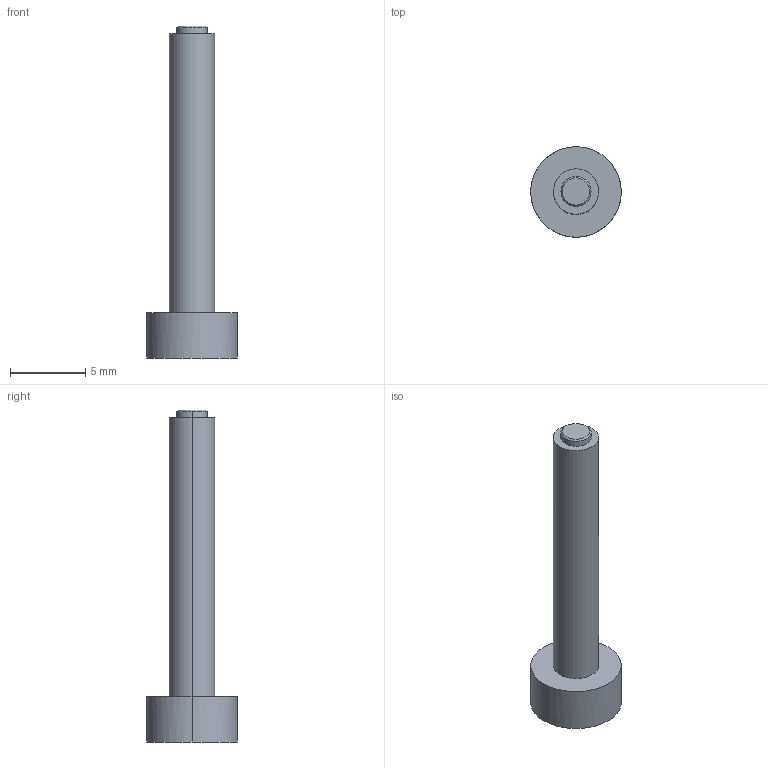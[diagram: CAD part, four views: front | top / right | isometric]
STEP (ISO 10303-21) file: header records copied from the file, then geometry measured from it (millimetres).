
FILE_DESCRIPTION(('CATIA V5 STEP Exchange'),'2;1');
FILE_NAME('D:\姚明阳\1、工装图纸\AGZ007 升降阀压钢柱工装\GZ07.17_V2.stp','2024-03-06T11:25:53+00:00',('none'),('none'),'CATIA Version 5 Release 21 GA (IN-10)','CATIA V5 STEP AP214','none');
FILE_SCHEMA(('AUTOMOTIVE_DESIGN { 1 0 10303 214 1 1 1 1 }'));
Length unit declared in the file: millimetre
Products named in the file (1): GZ07.13_V1.1
Bounding box: 6 x 6 x 22 mm (x, y, z)
Volume: 217.1 mm3; surface area: 290.2 mm2
Topology: 1 solids, 1 shells, 12 faces, 22 edges, 14 vertices
Faces by surface type: cylinder 6, plane 4, cone 2
Entity records: 333 total; most frequent: CARTESIAN_POINT 94, ORIENTED_EDGE 44, DIRECTION 34, EDGE_CURVE 22, AXIS2_PLACEMENT_3D 18, EDGE_LOOP 14, VERTEX_POINT 14, ADVANCED_FACE 12
